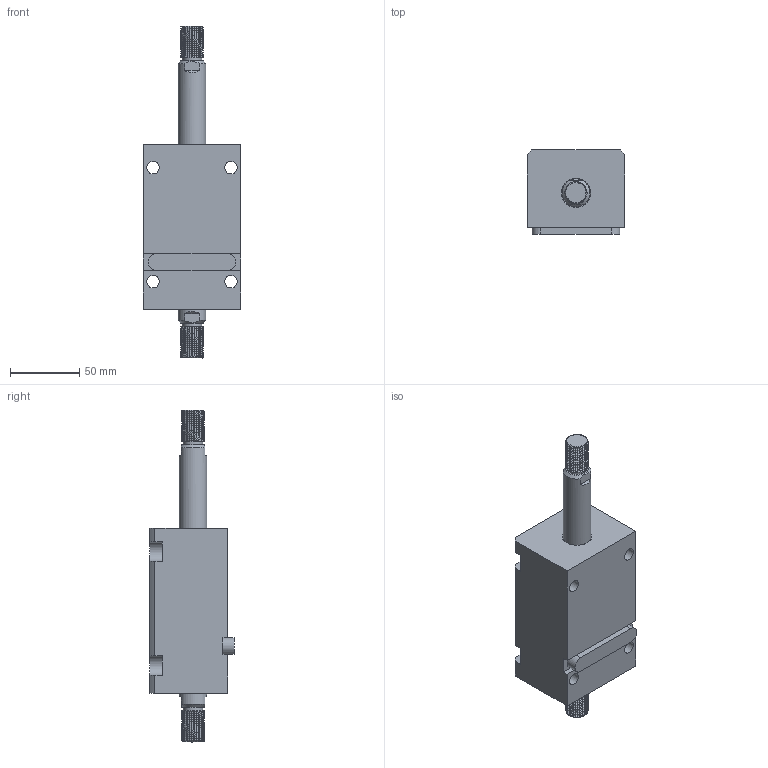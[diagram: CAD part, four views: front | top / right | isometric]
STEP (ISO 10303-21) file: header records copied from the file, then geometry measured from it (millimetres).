
FILE_DESCRIPTION(/* description */ (''),/* implementation_level */ '2;1');
FILE_NAME(/* name */ 'CHTB-LW32-50W.stp',/* time_stamp */ '2022-04-29T16:16:07+08:00',/* author */ (''),/* organization */ (''),/* preprocessor_version */ 'ST-DEVELOPER v16.7',/* originating_system */ 'SIEMENS PLM Software NX 12.0',/* authorisation */ '');
FILE_SCHEMA (('AUTOMOTIVE_DESIGN { 1 0 10303 214 3 1 1 1 }'));
Length unit declared in the file: millimetre
Products named in the file (1): CHTB-LW32-50W
Bounding box: 70 x 60.5 x 239 mm (x, y, z)
Volume: 449467.6 mm3; surface area: 83402.1 mm2
Topology: 3 solids, 3 shells, 468 faces, 1411 edges, 991 vertices
Faces by surface type: plane 302, extrusion 81, cylinder 46, bspline 14, cone 13, torus 12
Full cylindrical faces by diameter (mm): 3 x2, 4 x2, 9 x4, 10.7 x2, 14 x2, 20 x4, 24.5 x1, 26 x2, 28 x1, 32 x5, 40 x1
Entity records: 26236 total; most frequent: CARTESIAN_POINT 12259, ORIENTED_EDGE 2696, DIRECTION 1897, EDGE_CURVE 1348, VERTEX_POINT 979, VECTOR 923, LINE 842, EDGE_LOOP 575
